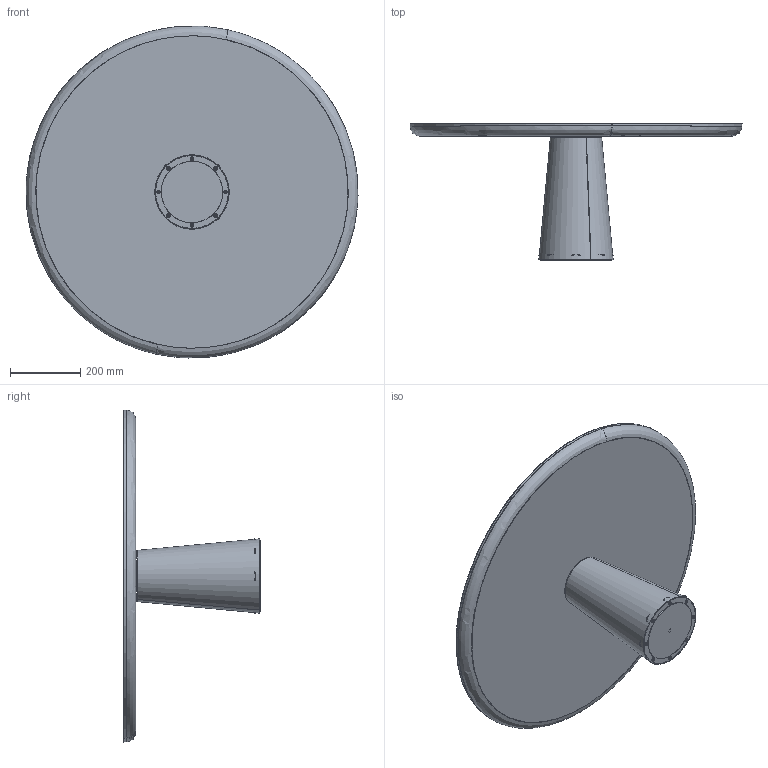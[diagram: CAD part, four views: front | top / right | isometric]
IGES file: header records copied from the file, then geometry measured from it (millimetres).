
Start section: SolidWorks IGES file using analytic representation for surfaces
Global section: file name: \\192.168.0.53\Reserch Development\SITO WEB\2024\FFG26A~6\Prodotti\3D\De Castelli - 3D - Sunrise.igs; native system: SolidWorks 2025; preprocessor: SolidWorks 2025; author: lauraa; date: 260202.105347; units: millimetre
Bounding box: 945.75 x 389.5 x 945.75 mm (x, y, z)
Surface area: 1989607.8 mm2 (no closed solid volume)
Topology: 0 solids, 0 shells, 173 faces, 2204 edges, 2196 vertices
Faces by surface type: revolution 100, bspline 73
